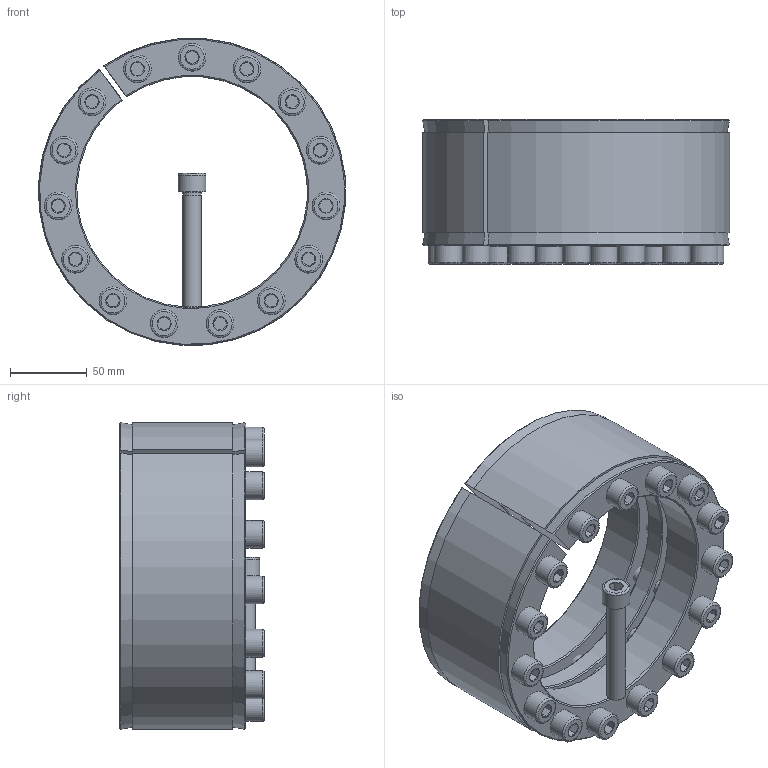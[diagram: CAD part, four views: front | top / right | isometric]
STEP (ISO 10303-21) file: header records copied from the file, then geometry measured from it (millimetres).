
FILE_DESCRIPTION( ( 'Unknown' ), '1' );
FILE_NAME( 'C:/Users/Frank/Eigene Daten/CAD/Solid Edge/KBK Karpstein/KBS Layout Baureihen/KBS 18/KBS - 150 x 200.stp', 'Unknown', ( 'Unknown' ), ( 'Unknown' ), 'XStep 1.0', 'Unknown', ' ' );
FILE_SCHEMA( ( 'automotive_design' ) );
Length unit declared in the file: millimetre
Products named in the file (3): Assem1; ISO EN DIN 4762 M12x75; KBS 18 - 150 x 200
Bounding box: 199.56 x 94 x 199.44 mm (x, y, z)
Volume: 1876706.4 mm3; surface area: 445839.9 mm2
Topology: 18 solids, 18 shells, 572 faces, 1282 edges, 750 vertices
Faces by surface type: plane 242, cylinder 162, cone 136, torus 32
Full cylindrical faces by diameter (mm): 10.106 x30, 11 x16, 12 x32, 13 x60, 18 x16
Entity records: 4138 total; most frequent: CARTESIAN_POINT 874, DIRECTION 674, ORIENTED_EDGE 544, AXIS2_PLACEMENT_3D 319, EDGE_CURVE 272, EDGE_LOOP 227, VERTEX_POINT 191, CIRCLE 191
